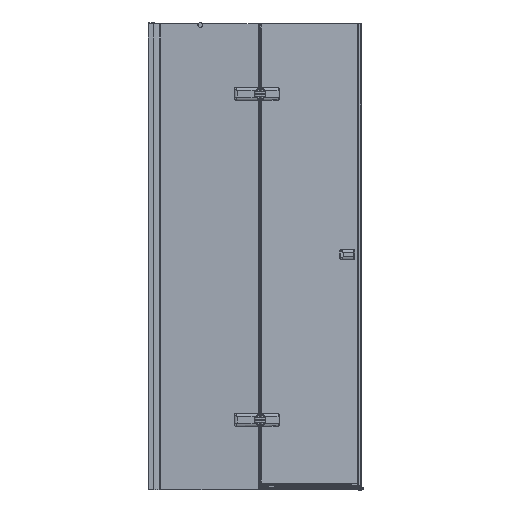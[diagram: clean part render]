
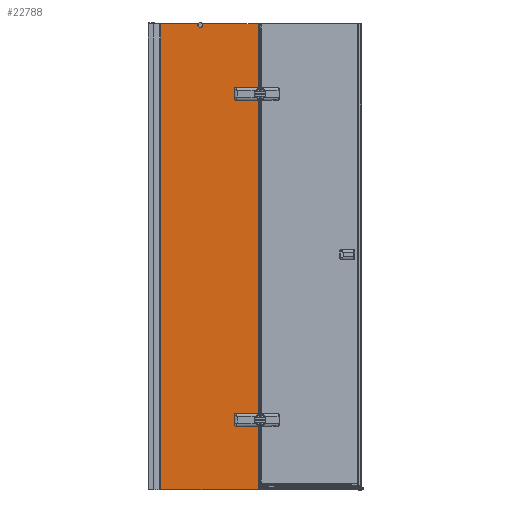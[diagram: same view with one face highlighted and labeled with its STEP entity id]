
A CAD part, front view. The second image highlights one B-rep face of the part: STEP entity #22788.
In plain terms, the highlighted planar face has unit normal (0, -1, 0).
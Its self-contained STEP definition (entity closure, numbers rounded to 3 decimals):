
#530=PLANE($,#24449);
#1930=LINE($,#49072,#3969);
#1934=LINE($,#49084,#3973);
#1938=LINE($,#49095,#3977);
#2038=LINE($,#49784,#4077);
#2042=LINE($,#49791,#4081);
#2072=LINE($,#49872,#4111);
#2073=LINE($,#49876,#4112);
#2074=LINE($,#49880,#4113);
#2075=LINE($,#49884,#4114);
#2076=LINE($,#49886,#4115);
#2077=LINE($,#49890,#4116);
#2078=LINE($,#49892,#4117);
#2079=LINE($,#49893,#4118);
#3969=VECTOR($,#27865,96.);
#3973=VECTOR($,#27877,42.);
#3977=VECTOR($,#27889,96.);
#4077=VECTOR($,#28241,274.172);
#4081=VECTOR($,#28247,1348.344);
#4111=VECTOR($,#28305,96.);
#4112=VECTOR($,#28308,42.);
#4113=VECTOR($,#28311,96.);
#4114=VECTOR($,#28314,274.101);
#4115=VECTOR($,#28315,239.562);
#4116=VECTOR($,#28318,164.716);
#4117=VECTOR($,#28319,2000.);
#4118=VECTOR($,#28320,422.439);
#6121=FACE_OUTER_BOUND($,#7392,.T.);
#7392=EDGE_LOOP($,(#17338,#17339,#17340,#17341,#17342,#17343,#17344,#17345,
#17346,#17347,#17348,#17349,#17350,#17351,#17352,#17353,#17354,#17355,#17356,
#17357,#17358,#17359));
#8801=CIRCLE($,#24221,5.);
#8805=CIRCLE($,#24230,5.);
#8838=CIRCLE($,#24303,5.);
#8840=CIRCLE($,#24307,5.);
#8886=CIRCLE($,#24450,5.);
#8887=CIRCLE($,#24451,5.);
#8888=CIRCLE($,#24452,5.);
#8889=CIRCLE($,#24453,5.);
#8890=CIRCLE($,#24454,10.);
#10057=VERTEX_POINT($,#48702);
#10058=VERTEX_POINT($,#48704);
#10086=VERTEX_POINT($,#48771);
#10088=VERTEX_POINT($,#48774);
#10189=VERTEX_POINT($,#49071);
#10191=VERTEX_POINT($,#49077);
#10193=VERTEX_POINT($,#49083);
#10195=VERTEX_POINT($,#49089);
#10291=VERTEX_POINT($,#49783);
#10293=VERTEX_POINT($,#49789);
#10323=VERTEX_POINT($,#49869);
#10324=VERTEX_POINT($,#49871);
#10325=VERTEX_POINT($,#49873);
#10326=VERTEX_POINT($,#49875);
#10327=VERTEX_POINT($,#49877);
#10328=VERTEX_POINT($,#49879);
#10329=VERTEX_POINT($,#49881);
#10330=VERTEX_POINT($,#49883);
#10331=VERTEX_POINT($,#49885);
#10332=VERTEX_POINT($,#49887);
#10333=VERTEX_POINT($,#49889);
#10334=VERTEX_POINT($,#49891);
#12501=EDGE_CURVE($,#10058,#10057,#8801,.T.);
#12532=EDGE_CURVE($,#10088,#10086,#8805,.T.);
#12680=EDGE_CURVE($,#10057,#10189,#1930,.T.);
#12683=EDGE_CURVE($,#10189,#10191,#8838,.T.);
#12686=EDGE_CURVE($,#10191,#10193,#1934,.T.);
#12689=EDGE_CURVE($,#10193,#10195,#8840,.T.);
#12692=EDGE_CURVE($,#10195,#10088,#1938,.T.);
#12861=EDGE_CURVE($,#10291,#10058,#2038,.T.);
#12865=EDGE_CURVE($,#10086,#10293,#2042,.T.);
#12903=EDGE_CURVE($,#10293,#10323,#8886,.T.);
#12904=EDGE_CURVE($,#10323,#10324,#2072,.T.);
#12905=EDGE_CURVE($,#10324,#10325,#8887,.T.);
#12906=EDGE_CURVE($,#10325,#10326,#2073,.T.);
#12907=EDGE_CURVE($,#10326,#10327,#8888,.T.);
#12908=EDGE_CURVE($,#10327,#10328,#2074,.T.);
#12909=EDGE_CURVE($,#10328,#10329,#8889,.T.);
#12910=EDGE_CURVE($,#10329,#10330,#2075,.T.);
#12911=EDGE_CURVE($,#10330,#10331,#2076,.T.);
#12912=EDGE_CURVE($,#10331,#10332,#8890,.T.);
#12913=EDGE_CURVE($,#10332,#10333,#2077,.T.);
#12914=EDGE_CURVE($,#10333,#10334,#2078,.T.);
#12915=EDGE_CURVE($,#10291,#10334,#2079,.T.);
#17338=ORIENTED_EDGE($,*,*,#12501,.T.);
#17339=ORIENTED_EDGE($,*,*,#12680,.T.);
#17340=ORIENTED_EDGE($,*,*,#12683,.T.);
#17341=ORIENTED_EDGE($,*,*,#12686,.T.);
#17342=ORIENTED_EDGE($,*,*,#12689,.T.);
#17343=ORIENTED_EDGE($,*,*,#12692,.T.);
#17344=ORIENTED_EDGE($,*,*,#12532,.T.);
#17345=ORIENTED_EDGE($,*,*,#12865,.T.);
#17346=ORIENTED_EDGE($,*,*,#12903,.T.);
#17347=ORIENTED_EDGE($,*,*,#12904,.T.);
#17348=ORIENTED_EDGE($,*,*,#12905,.T.);
#17349=ORIENTED_EDGE($,*,*,#12906,.T.);
#17350=ORIENTED_EDGE($,*,*,#12907,.T.);
#17351=ORIENTED_EDGE($,*,*,#12908,.T.);
#17352=ORIENTED_EDGE($,*,*,#12909,.T.);
#17353=ORIENTED_EDGE($,*,*,#12910,.T.);
#17354=ORIENTED_EDGE($,*,*,#12911,.T.);
#17355=ORIENTED_EDGE($,*,*,#12912,.T.);
#17356=ORIENTED_EDGE($,*,*,#12913,.T.);
#17357=ORIENTED_EDGE($,*,*,#12914,.T.);
#17358=ORIENTED_EDGE($,*,*,#12915,.F.);
#17359=ORIENTED_EDGE($,*,*,#12861,.T.);
#22788=ADVANCED_FACE($,(#6121),#530,.T.);
#24221=AXIS2_PLACEMENT_3D($,#48705,#27572,#27573);
#24230=AXIS2_PLACEMENT_3D($,#48775,#27615,#27616);
#24303=AXIS2_PLACEMENT_3D($,#49078,#27870,#27871);
#24307=AXIS2_PLACEMENT_3D($,#49090,#27882,#27883);
#24449=AXIS2_PLACEMENT_3D($,#49868,#28301,#28302);
#24450=AXIS2_PLACEMENT_3D($,#49870,#28303,#28304);
#24451=AXIS2_PLACEMENT_3D($,#49874,#28306,#28307);
#24452=AXIS2_PLACEMENT_3D($,#49878,#28309,#28310);
#24453=AXIS2_PLACEMENT_3D($,#49882,#28312,#28313);
#24454=AXIS2_PLACEMENT_3D($,#49888,#28316,#28317);
#27572=DIRECTION('center_axis',(0.,1.,0.));
#27573=DIRECTION('ref_axis',(0.,0.,
1.));
#27615=DIRECTION('center_axis',(0.,1.,0.));
#27616=DIRECTION('ref_axis',(-1.,0.,0.));
#27865=DIRECTION($,(-1.,0.,0.));
#27870=DIRECTION('center_axis',(0.,1.,0.));
#27871=DIRECTION('ref_axis',(1.,0.,0.));
#27877=DIRECTION($,(0.,0.,1.));
#27882=DIRECTION('center_axis',(0.,1.,0.));
#27883=DIRECTION('ref_axis',(0.,0.,
-1.));
#27889=DIRECTION($,(1.,0.,0.));
#28241=DIRECTION($,(0.,0.,1.));
#28247=DIRECTION($,(0.,0.,1.));
#28301=DIRECTION('center_axis',(0.,-1.,0.));
#28302=DIRECTION('ref_axis',(-1.,0.,0.));
#28303=DIRECTION('center_axis',(0.,1.,0.));
#28304=DIRECTION('ref_axis',(0.,0.,
1.));
#28305=DIRECTION($,(-1.,0.,0.));
#28306=DIRECTION('center_axis',(0.,1.,0.));
#28307=DIRECTION('ref_axis',(1.,0.,0.));
#28308=DIRECTION($,(0.,0.,1.));
#28309=DIRECTION('center_axis',(0.,1.,0.));
#28310=DIRECTION('ref_axis',(0.,0.,
-1.));
#28311=DIRECTION($,(1.,0.,0.));
#28312=DIRECTION('center_axis',(0.,1.,0.));
#28313=DIRECTION('ref_axis',(-1.,0.,0.));
#28314=DIRECTION($,(0.,0.,1.));
#28315=DIRECTION($,(-1.,0.,0.));
#28316=DIRECTION('center_axis',(0.,1.,0.));
#28317=DIRECTION('ref_axis',(-1.,0.,0.));
#28318=DIRECTION($,(-1.,0.,0.));
#28319=DIRECTION($,(0.,0.,-1.));
#28320=DIRECTION($,(-1.,0.,0.));
#48702=CARTESIAN_POINT('',(837.158,-155.35,-140.056));
#48704=CARTESIAN_POINT('',(838.458,-155.35,-139.884));
#48705=CARTESIAN_POINT('Origin',(837.158,-155.35,-135.056));
#48771=CARTESIAN_POINT('',(838.458,-155.35,-88.227));
#48774=CARTESIAN_POINT('',(837.158,-155.35,-88.056));
#48775=CARTESIAN_POINT('Origin',(837.158,-155.35,-93.056));
#49071=CARTESIAN_POINT('',(741.158,-155.35,-140.056));
#49072=CARTESIAN_POINT($,(792.158,-155.35,-140.056));
#49077=CARTESIAN_POINT('',(736.158,-155.35,-135.056));
#49078=CARTESIAN_POINT('Origin',(741.158,-155.35,-135.056));
#49083=CARTESIAN_POINT('',(736.158,-155.35,-93.056));
#49084=CARTESIAN_POINT($,(736.158,-155.35,746.444));
#49089=CARTESIAN_POINT('',(741.158,-155.35,-88.056));
#49090=CARTESIAN_POINT('Origin',(741.158,-155.35,-93.056));
#49095=CARTESIAN_POINT($,(840.158,-155.35,-88.056));
#49783=CARTESIAN_POINT('',(838.458,-155.35,-414.056));
#49784=CARTESIAN_POINT($,(838.458,-155.35,585.944));
#49789=CARTESIAN_POINT('',(838.458,-155.35,1260.116));
#49791=CARTESIAN_POINT($,(838.458,-155.35,740.944));
#49868=CARTESIAN_POINT('Origin',(843.158,-155.35,1585.944));
#49869=CARTESIAN_POINT('',(837.158,-155.35,1259.944));
#49870=CARTESIAN_POINT('Origin',(837.158,-155.35,1264.944));
#49871=CARTESIAN_POINT('',(741.158,-155.35,1259.944));
#49872=CARTESIAN_POINT($,(792.158,-155.35,1259.944));
#49873=CARTESIAN_POINT('',(736.158,-155.35,1264.944));
#49874=CARTESIAN_POINT('Origin',(741.158,-155.35,1264.944));
#49875=CARTESIAN_POINT('',(736.158,-155.35,1306.944));
#49876=CARTESIAN_POINT($,(736.158,-155.35,1446.444));
#49877=CARTESIAN_POINT('',(741.158,-155.35,1311.944));
#49878=CARTESIAN_POINT('Origin',(741.158,-155.35,1306.944));
#49879=CARTESIAN_POINT('',(837.158,-155.35,1311.944));
#49880=CARTESIAN_POINT($,(840.158,-155.35,1311.944));
#49881=CARTESIAN_POINT('',(838.158,-155.35,1311.843));
#49882=CARTESIAN_POINT('Origin',(837.158,-155.35,1306.944));
#49883=CARTESIAN_POINT('',(838.158,-155.35,1585.944));
#49884=CARTESIAN_POINT($,(838.158,-155.35,1585.944));
#49885=CARTESIAN_POINT('',(598.596,-155.35,1585.944));
#49886=CARTESIAN_POINT($,(843.158,-155.35,1585.944));
#49887=CARTESIAN_POINT('',(580.735,-155.35,1585.944));
#49888=CARTESIAN_POINT('Origin',(589.666,-155.35,1581.444));
#49889=CARTESIAN_POINT('',(416.019,-155.35,1585.944));
#49890=CARTESIAN_POINT($,(843.158,-155.35,1585.944));
#49891=CARTESIAN_POINT('',(416.019,-155.35,-414.056));
#49892=CARTESIAN_POINT($,(416.019,-155.35,585.944));
#49893=CARTESIAN_POINT($,(843.158,-155.35,-414.056));
